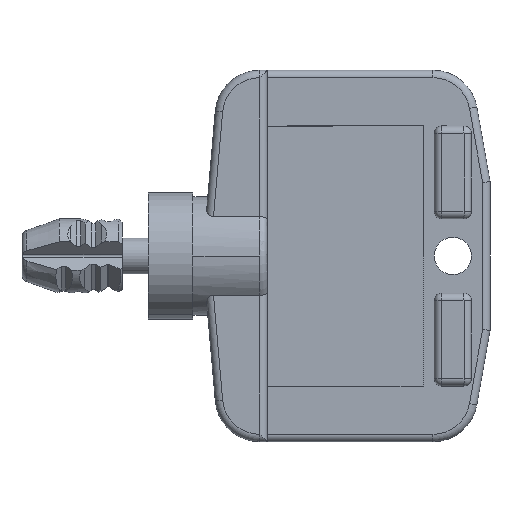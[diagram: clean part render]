
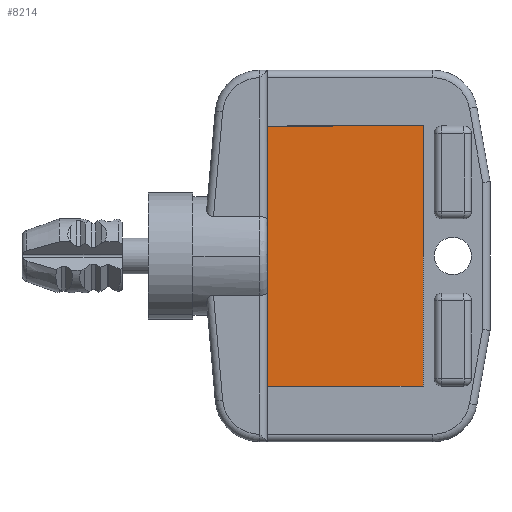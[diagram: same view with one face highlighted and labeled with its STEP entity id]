
A CAD part, front view. The second image highlights one B-rep face of the part: STEP entity #8214.
In plain terms, the highlighted planar face has unit normal (0, -1, 0) as drawn and (0, 0, -1) by its records, which use the part's own axes.
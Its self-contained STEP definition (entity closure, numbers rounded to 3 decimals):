
#1478 = VECTOR ( 'NONE', #11741, 1000. ) ;
#2706 = LINE ( 'NONE', #7864, #8966 ) ;
#2732 = CARTESIAN_POINT ( 'NONE',  ( 17.5, 10., -1.5 ) ) ;
#2884 = LINE ( 'NONE', #9799, #12739 ) ;
#3157 = CARTESIAN_POINT ( 'NONE',  ( -17.5, 10., -1.5 ) ) ;
#4029 = LINE ( 'NONE', #12061, #6703 ) ;
#4052 = AXIS2_PLACEMENT_3D ( 'NONE', #7036, #7074, #7077 ) ;
#4111 = ORIENTED_EDGE ( 'NONE', *, *, #11458, .T. ) ;
#4653 = LINE ( 'NONE', #11631, #1478 ) ;
#4839 = ORIENTED_EDGE ( 'NONE', *, *, #13559, .T. ) ;
#5008 = VERTEX_POINT ( 'NONE', #3157 ) ;
#5573 = CARTESIAN_POINT ( 'NONE',  ( 17.5, 31., -1.5 ) ) ;
#5901 = VERTEX_POINT ( 'NONE', #5955 ) ;
#5955 = CARTESIAN_POINT ( 'NONE',  ( -17.5, 31., -1.5 ) ) ;
#6603 = DIRECTION ( 'NONE',  ( 0., 1., 0. ) ) ;
#6668 = ORIENTED_EDGE ( 'NONE', *, *, #9102, .T. ) ;
#6703 = VECTOR ( 'NONE', #12058, 1000. ) ;
#6789 = EDGE_CURVE ( 'NONE', #5901, #7988, #4653, .T. ) ;
#7020 = PLANE ( 'NONE',  #4052 ) ;
#7036 = CARTESIAN_POINT ( 'NONE',  ( 17.5, 10., -1.5 ) ) ;
#7074 = DIRECTION ( 'NONE',  ( 0., 0., -1. ) ) ;
#7077 = DIRECTION ( 'NONE',  ( -1., 0., 0. ) ) ;
#7864 = CARTESIAN_POINT ( 'NONE',  ( -17.5, 31., -1.5 ) ) ;
#7988 = VERTEX_POINT ( 'NONE', #5573 ) ;
#8214 = ADVANCED_FACE ( 'NONE', ( #16179 ), #7020, .T. ) ;
#8364 = VERTEX_POINT ( 'NONE', #2732 ) ;
#8727 = ORIENTED_EDGE ( 'NONE', *, *, #6789, .T. ) ;
#8966 = VECTOR ( 'NONE', #6603, 1000. ) ;
#9102 = EDGE_CURVE ( 'NONE', #8364, #5008, #4029, .T. ) ;
#9799 = CARTESIAN_POINT ( 'NONE',  ( 17.5, 31., -1.5 ) ) ;
#9821 = DIRECTION ( 'NONE',  ( 0., -1., 0. ) ) ;
#9864 = EDGE_LOOP ( 'NONE', ( #4839, #6668, #4111, #8727 ) ) ;
#11458 = EDGE_CURVE ( 'NONE', #5008, #5901, #2706, .T. ) ;
#11631 = CARTESIAN_POINT ( 'NONE',  ( 17.5, 31., -1.5 ) ) ;
#11741 = DIRECTION ( 'NONE',  ( 1., 0., 0. ) ) ;
#12058 = DIRECTION ( 'NONE',  ( -1., 0., 0. ) ) ;
#12061 = CARTESIAN_POINT ( 'NONE',  ( 17.5, 10., -1.5 ) ) ;
#12739 = VECTOR ( 'NONE', #9821, 1000. ) ;
#13559 = EDGE_CURVE ( 'NONE', #7988, #8364, #2884, .T. ) ;
#16179 = FACE_OUTER_BOUND ( 'NONE', #9864, .T. ) ;
